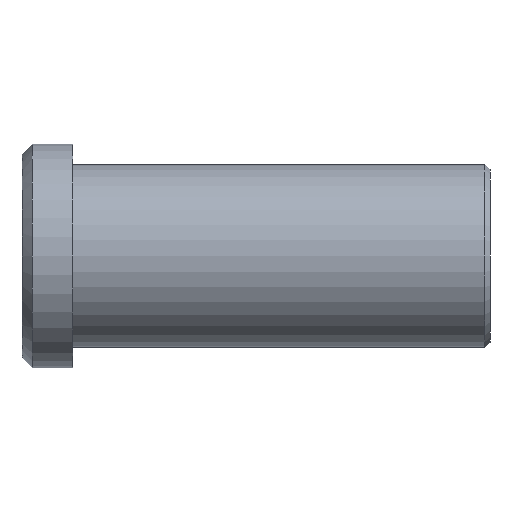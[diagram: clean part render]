
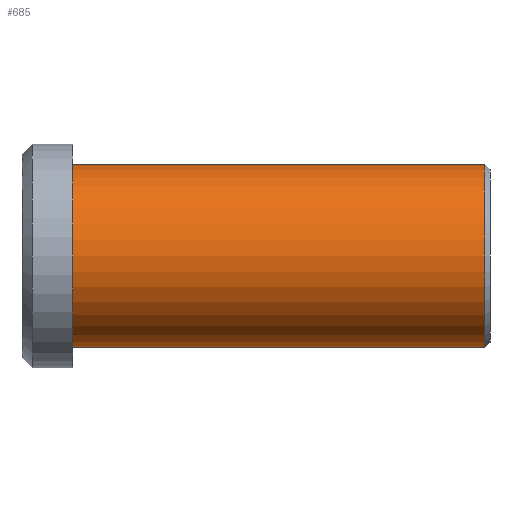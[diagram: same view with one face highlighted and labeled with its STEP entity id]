
A CAD part, front view. The second image highlights one B-rep face of the part: STEP entity #685.
In plain terms, the highlighted cylindrical face has radius 9 mm (diameter 18 mm), a partial arc.
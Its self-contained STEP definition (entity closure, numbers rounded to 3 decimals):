
#495=CARTESIAN_POINT('Vertex',(0.,0.,-9.)) ;
#500=CARTESIAN_POINT('Axis2P3D Location',(0.,0.,0.)) ;
#504=CARTESIAN_POINT('Vertex',(0.,-9.,0.)) ;
#507=CARTESIAN_POINT('Axis2P3D Location',(0.,0.,0.)) ;
#511=CARTESIAN_POINT('Vertex',(0.,0.,9.)) ;
#625=CARTESIAN_POINT('Line Origine',(41.,0.,9.)) ;
#629=CARTESIAN_POINT('Vertex',(40.5,0.,9.)) ;
#643=CARTESIAN_POINT('Vertex',(40.5,0.,-9.)) ;
#646=CARTESIAN_POINT('Line Origine',(41.,0.,-9.)) ;
#660=CARTESIAN_POINT('Axis2P3D Location',(41.,0.,0.)) ;
#665=CARTESIAN_POINT('Axis2P3D Location',(40.5,0.,0.)) ;
#669=CARTESIAN_POINT('Vertex',(40.5,-9.,0.)) ;
#672=CARTESIAN_POINT('Axis2P3D Location',(40.5,0.,0.)) ;
#501=DIRECTION('Axis2P3D Direction',(1.,0.,-0.)) ;
#508=DIRECTION('Axis2P3D Direction',(1.,0.,-0.)) ;
#626=DIRECTION('Vector Direction',(-1.,0.,0.)) ;
#647=DIRECTION('Vector Direction',(-1.,0.,0.)) ;
#661=DIRECTION('Axis2P3D Direction',(-1.,-0.,-0.)) ;
#662=DIRECTION('Axis2P3D XDirection',(0.,0.,-1.)) ;
#666=DIRECTION('Axis2P3D Direction',(-1.,-0.,-0.)) ;
#673=DIRECTION('Axis2P3D Direction',(-1.,-0.,-0.)) ;
#502=AXIS2_PLACEMENT_3D('Circle Axis2P3D',#500,#501,$) ;
#509=AXIS2_PLACEMENT_3D('Circle Axis2P3D',#507,#508,$) ;
#663=AXIS2_PLACEMENT_3D('Cylinder Axis2P3D',#660,#661,#662) ;
#667=AXIS2_PLACEMENT_3D('Circle Axis2P3D',#665,#666,$) ;
#674=AXIS2_PLACEMENT_3D('Circle Axis2P3D',#672,#673,$) ;
#678=ORIENTED_EDGE('',*,*,#650,.T.) ;
#679=ORIENTED_EDGE('',*,*,#671,.F.) ;
#680=ORIENTED_EDGE('',*,*,#676,.F.) ;
#681=ORIENTED_EDGE('',*,*,#631,.T.) ;
#682=ORIENTED_EDGE('',*,*,#513,.T.) ;
#683=ORIENTED_EDGE('',*,*,#506,.T.) ;
#627=VECTOR('Line Direction',#626,1.) ;
#648=VECTOR('Line Direction',#647,1.) ;
#685=ADVANCED_FACE('353-12X46',(#684),#664,.T.) ;
#503=CIRCLE('generated circle',#502,9.) ;
#510=CIRCLE('generated circle',#509,9.) ;
#668=CIRCLE('generated circle',#667,9.) ;
#675=CIRCLE('generated circle',#674,9.) ;
#664=CYLINDRICAL_SURFACE('generated cylinder',#663,9.) ;
#506=EDGE_CURVE('',#505,#496,#503,.T.) ;
#513=EDGE_CURVE('',#512,#505,#510,.T.) ;
#631=EDGE_CURVE('',#630,#512,#628,.T.) ;
#650=EDGE_CURVE('',#496,#644,#649,.F.) ;
#671=EDGE_CURVE('',#670,#644,#668,.F.) ;
#676=EDGE_CURVE('',#630,#670,#675,.F.) ;
#677=EDGE_LOOP('',(#678,#679,#680,#681,#682,#683)) ;
#684=FACE_OUTER_BOUND('',#677,.T.) ;
#628=LINE('Line',#625,#627) ;
#649=LINE('Line',#646,#648) ;
#496=VERTEX_POINT('',#495) ;
#505=VERTEX_POINT('',#504) ;
#512=VERTEX_POINT('',#511) ;
#630=VERTEX_POINT('',#629) ;
#644=VERTEX_POINT('',#643) ;
#670=VERTEX_POINT('',#669) ;
